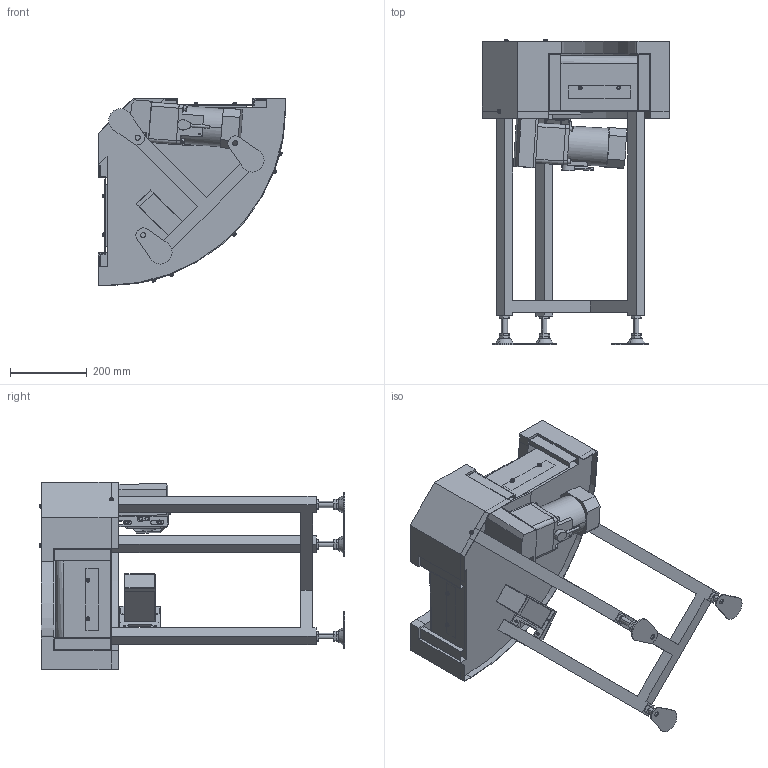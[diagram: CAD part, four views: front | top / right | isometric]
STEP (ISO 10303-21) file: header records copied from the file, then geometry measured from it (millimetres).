
FILE_DESCRIPTION (( 'STEP AP214' ), '1' );
FILE_NAME ('MBC2H-UD-320-200-90°-R-IV-5-O-H.STEP', '2024-01-17T00:17:26', ( '' ), ( '' ), 'SwSTEP 2.0', 'SolidWorks 2017', '' );
FILE_SCHEMA (( 'AUTOMOTIVE_DESIGN' ));
Length unit declared in the file: millimetre
Products named in the file (1): MBC2H-UD-320-200-90°-R-IV-5-O-H
Bounding box: 488.1 x 794.6 x 488.1 mm (x, y, z)
Volume: 24819129.8 mm3; surface area: 1922732.9 mm2
Topology: 33 solids, 34 shells, 1072 faces, 2517 edges, 1596 vertices
Faces by surface type: plane 567, cylinder 321, cone 84, torus 48, bspline 46, sphere 6
Entity records: 34226 total; most frequent: CARTESIAN_POINT 9072, DIRECTION 5218, ORIENTED_EDGE 5002, EDGE_CURVE 2501, AXIS2_PLACEMENT_3D 1881, VERTEX_POINT 1596, VECTOR 1456, LINE 1456
